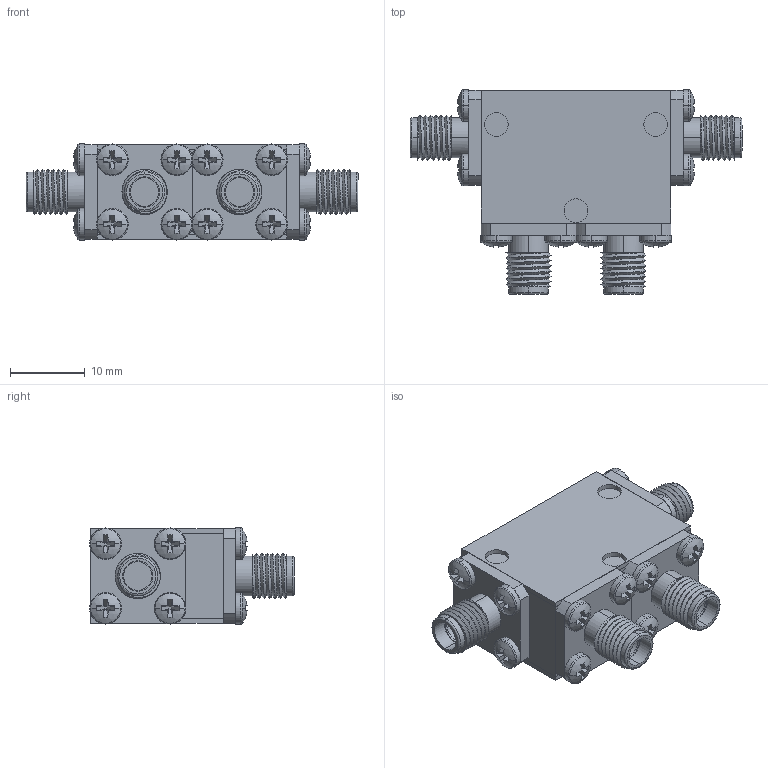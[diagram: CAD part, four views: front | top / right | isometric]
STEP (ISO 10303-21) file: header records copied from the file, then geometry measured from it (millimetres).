
FILE_DESCRIPTION (( 'STEP AP214' ), '1' );
FILE_NAME ('Package 16 Circ FFFF.step', '2021-12-01T20:58:33', ( '' ), ( '' ), 'SwSTEP 2.0', 'SolidWorks 2016', '' );
FILE_SCHEMA (( 'AUTOMOTIVE_DESIGN' ));
Length unit declared in the file: inch
Products named in the file (5): Package 16 Circ FFFF; Package 16; Delta SMA-Female 0.500 flange Threaded; Package Size 16; pan cross head_ai_CR-PHMS 0.086-56x0.125x0.125-N
Assembly tree (22 placements, depth 2):
  Package 16 Circ FFFF
    Package 16
    Delta SMA-Female 0.500 flange Threaded  x4
    pan cross head_ai_CR-PHMS 0.086-56x0.125x0.125-N  x16
    Package Size 16
Bounding box: 44.45 x 27.39 x 12.88 mm (x, y, z)
Volume: 7316.6 mm3; surface area: 8090 mm2
Topology: 22 solids, 22 shells, 552 faces, 1252 edges, 772 vertices
Faces by surface type: plane 304, cylinder 164, torus 40, sphere 32, bspline 12
Entity records: 3769 total; most frequent: CARTESIAN_POINT 1210, DIRECTION 537, ORIENTED_EDGE 434, EDGE_CURVE 217, AXIS2_PLACEMENT_3D 216, VERTEX_POINT 139, EDGE_LOOP 116, LINE 105
